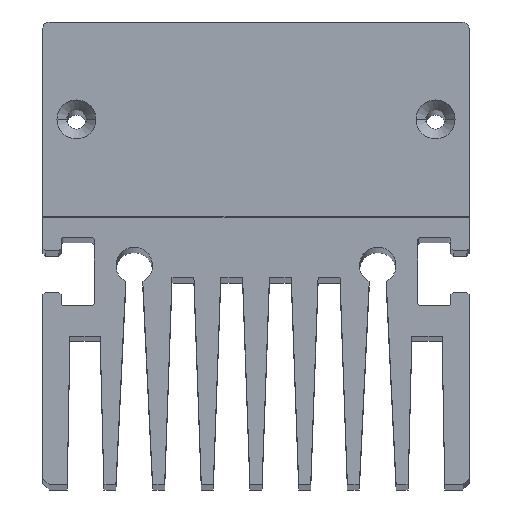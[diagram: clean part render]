
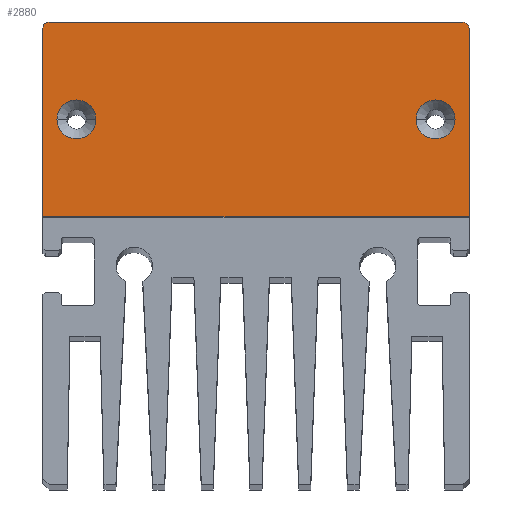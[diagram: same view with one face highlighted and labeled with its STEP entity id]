
A CAD part, top view. The second image highlights one B-rep face of the part: STEP entity #2880.
In plain terms, the highlighted planar face has unit normal (0, 0, 1).
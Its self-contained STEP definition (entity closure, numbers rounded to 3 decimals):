
#629=DIRECTION('',(1.,0.,0.));
#630=VECTOR('',#629,35.001);
#631=CARTESIAN_POINT('',(-17.5,2.8,127.));
#632=LINE('',#631,#630);
#633=CARTESIAN_POINT('',(-17.,18.3,127.));
#634=DIRECTION('',(0.,0.,1.));
#635=DIRECTION('',(0.,1.,0.));
#636=AXIS2_PLACEMENT_3D('',#633,#634,#635);
#638=CARTESIAN_POINT('',(17.497,18.3,127.));
#639=CARTESIAN_POINT('',(17.497,18.369,127.));
#640=CARTESIAN_POINT('',(17.469,18.495,127.));
#641=CARTESIAN_POINT('',(17.359,18.663,127.));
#642=CARTESIAN_POINT('',(17.19,18.774,127.));
#643=CARTESIAN_POINT('',(17.066,18.8,127.));
#644=CARTESIAN_POINT('',(16.997,18.8,127.));
#646=CARTESIAN_POINT('',(14.75,10.8,127.));
#647=DIRECTION('',(0.,0.,-1.));
#648=DIRECTION('',(-1.,0.,0.));
#649=AXIS2_PLACEMENT_3D('',#646,#647,#648);
#651=CARTESIAN_POINT('',(14.75,10.8,127.));
#652=DIRECTION('',(0.,0.,-1.));
#653=DIRECTION('',(1.,0.,0.));
#654=AXIS2_PLACEMENT_3D('',#651,#652,#653);
#656=CARTESIAN_POINT('',(-14.75,10.8,127.));
#657=DIRECTION('',(0.,0.,-1.));
#658=DIRECTION('',(-1.,0.,0.));
#659=AXIS2_PLACEMENT_3D('',#656,#657,#658);
#661=CARTESIAN_POINT('',(-14.75,10.8,127.));
#662=DIRECTION('',(0.,0.,-1.));
#663=DIRECTION('',(1.,0.,0.));
#664=AXIS2_PLACEMENT_3D('',#661,#662,#663);
#706=DIRECTION('',(0.,-1.,0.));
#707=VECTOR('',#706,15.5);
#708=CARTESIAN_POINT('',(-17.5,18.3,127.));
#709=LINE('',#708,#707);
#1118=DIRECTION('',(0.,1.,0.));
#1119=VECTOR('',#1118,15.5);
#1120=CARTESIAN_POINT('',(17.501,2.8,127.));
#1121=LINE('',#1120,#1119);
#1666=DIRECTION('',(-1.,0.,0.));
#1667=VECTOR('',#1666,33.997);
#1668=CARTESIAN_POINT('',(16.997,18.8,127.));
#1669=LINE('',#1668,#1667);
#2264=CARTESIAN_POINT('',(-17.,18.8,127.));
#2265=CARTESIAN_POINT('',(-17.5,18.3,127.));
#2266=VERTEX_POINT('',#2264);
#2267=VERTEX_POINT('',#2265);
#2268=VERTEX_POINT('',#638);
#2269=VERTEX_POINT('',#644);
#2274=CARTESIAN_POINT('',(-17.5,2.8,127.));
#2275=CARTESIAN_POINT('',(17.501,2.8,127.));
#2276=VERTEX_POINT('',#2274);
#2277=VERTEX_POINT('',#2275);
#2416=CARTESIAN_POINT('',(13.15,10.8,127.));
#2417=CARTESIAN_POINT('',(16.35,10.8,127.));
#2418=VERTEX_POINT('',#2416);
#2419=VERTEX_POINT('',#2417);
#2424=CARTESIAN_POINT('',(-16.35,10.8,127.));
#2425=CARTESIAN_POINT('',(-13.15,10.8,127.));
#2426=VERTEX_POINT('',#2424);
#2427=VERTEX_POINT('',#2425);
#2850=CARTESIAN_POINT('',(0.,0.,127.));
#2851=DIRECTION('',(0.,0.,1.));
#2852=DIRECTION('',(1.,0.,0.));
#2853=AXIS2_PLACEMENT_3D('',#2850,#2851,#2852);
#2854=PLANE('',#2853);
#2856=ORIENTED_EDGE('',*,*,#2855,.F.);
#2858=ORIENTED_EDGE('',*,*,#2857,.F.);
#2860=ORIENTED_EDGE('',*,*,#2859,.F.);
#2862=ORIENTED_EDGE('',*,*,#2861,.F.);
#2864=ORIENTED_EDGE('',*,*,#2863,.F.);
#2866=ORIENTED_EDGE('',*,*,#2865,.F.);
#2867=EDGE_LOOP('',(#2856,#2858,#2860,#2862,#2864,#2866));
#2868=FACE_OUTER_BOUND('',#2867,.F.);
#2870=ORIENTED_EDGE('',*,*,#2869,.F.);
#2872=ORIENTED_EDGE('',*,*,#2871,.F.);
#2873=EDGE_LOOP('',(#2870,#2872));
#2874=FACE_BOUND('',#2873,.F.);
#2875=ORIENTED_EDGE('',*,*,#2692,.F.);
#2877=ORIENTED_EDGE('',*,*,#2876,.F.);
#2878=EDGE_LOOP('',(#2875,#2877));
#2879=FACE_BOUND('',#2878,.F.);
#637=CIRCLE('',#636,0.5);
#645=B_SPLINE_CURVE_WITH_KNOTS('',3,(#638,#639,#640,#641,#642,#643,#644),
.UNSPECIFIED.,.F.,.F.,(4,1,1,1,4),(0.,0.25,0.5,0.75,1.),
.UNSPECIFIED.);
#650=CIRCLE('',#649,1.6);
#655=CIRCLE('',#654,1.6);
#660=CIRCLE('',#659,1.6);
#665=CIRCLE('',#664,1.6);
#2692=EDGE_CURVE('',#2426,#2427,#660,.T.);
#2855=EDGE_CURVE('',#2276,#2277,#632,.T.);
#2857=EDGE_CURVE('',#2267,#2276,#709,.T.);
#2859=EDGE_CURVE('',#2266,#2267,#637,.T.);
#2861=EDGE_CURVE('',#2269,#2266,#1669,.T.);
#2863=EDGE_CURVE('',#2268,#2269,#645,.T.);
#2865=EDGE_CURVE('',#2277,#2268,#1121,.T.);
#2869=EDGE_CURVE('',#2418,#2419,#650,.T.);
#2871=EDGE_CURVE('',#2419,#2418,#655,.T.);
#2876=EDGE_CURVE('',#2427,#2426,#665,.T.);
#2880=ADVANCED_FACE('',(#2868,#2874,#2879),#2854,.T.);
